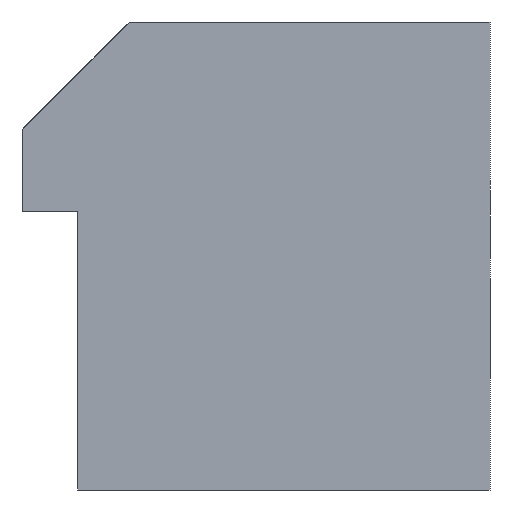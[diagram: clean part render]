
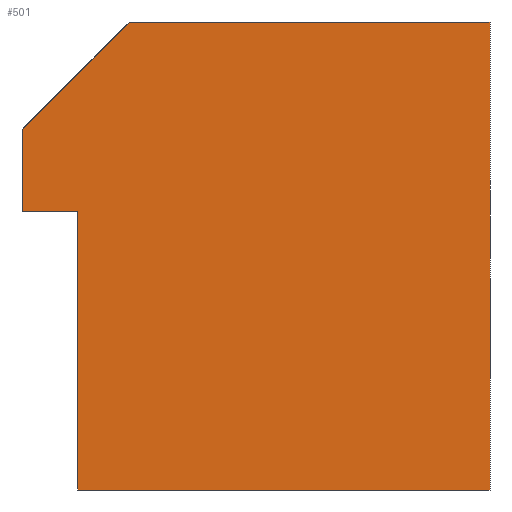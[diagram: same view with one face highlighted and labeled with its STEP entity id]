
A CAD part, front view. The second image highlights one B-rep face of the part: STEP entity #501.
In plain terms, the highlighted planar face has unit normal (0, -1, 0).
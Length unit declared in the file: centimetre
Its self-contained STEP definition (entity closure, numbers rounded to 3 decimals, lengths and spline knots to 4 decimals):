
#18 = LINE ( 'NONE', #917, #1191 ) ;
#30 = VECTOR ( 'NONE', #1062, 100. ) ;
#53 = AXIS2_PLACEMENT_3D ( 'NONE', #854, #500, #518 ) ;
#63 = CARTESIAN_POINT ( 'NONE',  ( 228.7157, 0., 1000. ) ) ;
#102 = VECTOR ( 'NONE', #739, 100. ) ;
#156 = EDGE_CURVE ( 'NONE', #779, #380, #1300, .T. ) ;
#163 = EDGE_CURVE ( 'NONE', #563, #359, #267, .T. ) ;
#182 = CARTESIAN_POINT ( 'NONE',  ( 228.7157, 0., 1000. ) ) ;
#223 = ORIENTED_EDGE ( 'NONE', *, *, #879, .T. ) ;
#231 = VECTOR ( 'NONE', #725, 100. ) ;
#235 = ORIENTED_EDGE ( 'NONE', *, *, #1087, .F. ) ;
#267 = LINE ( 'NONE', #1157, #1019 ) ;
#359 = VERTEX_POINT ( 'NONE', #885 ) ;
#380 = VERTEX_POINT ( 'NONE', #1138 ) ;
#382 = CARTESIAN_POINT ( 'NONE',  ( 119.5861, 0., 594.7686 ) ) ;
#383 = ORIENTED_EDGE ( 'NONE', *, *, #434, .T. ) ;
#388 = EDGE_LOOP ( 'NONE', ( #950, #383, #1366, #685, #235, #223, #1374 ) ) ;
#434 = EDGE_CURVE ( 'NONE', #779, #1420, #18, .T. ) ;
#462 = DIRECTION ( 'NONE',  ( 0., 0., -1. ) ) ;
#500 = DIRECTION ( 'NONE',  ( 0., 1., 0. ) ) ;
#501 = ADVANCED_FACE ( 'NONE', ( #525 ), #968, .F. ) ;
#505 = DIRECTION ( 'NONE',  ( -0.707, 0., -0.707 ) ) ;
#518 = DIRECTION ( 'NONE',  ( 0., 0., 1. ) ) ;
#525 = FACE_OUTER_BOUND ( 'NONE', #388, .T. ) ;
#528 = EDGE_CURVE ( 'NONE', #1420, #359, #1313, .T. ) ;
#529 = DIRECTION ( 'NONE',  ( 1., 0., 0. ) ) ;
#547 = CARTESIAN_POINT ( 'NONE',  ( 119.5861, 0., 0. ) ) ;
#563 = VERTEX_POINT ( 'NONE', #610 ) ;
#596 = CARTESIAN_POINT ( 'NONE',  ( 0., 0., 1000. ) ) ;
#603 = LINE ( 'NONE', #596, #656 ) ;
#610 = CARTESIAN_POINT ( 'NONE',  ( 1000., 0., 1000. ) ) ;
#656 = VECTOR ( 'NONE', #529, 100. ) ;
#685 = ORIENTED_EDGE ( 'NONE', *, *, #163, .F. ) ;
#725 = DIRECTION ( 'NONE',  ( -1., 0., 0. ) ) ;
#739 = DIRECTION ( 'NONE',  ( 0., 0., -1. ) ) ;
#741 = CARTESIAN_POINT ( 'NONE',  ( 0., 0., 0. ) ) ;
#749 = CARTESIAN_POINT ( 'NONE',  ( 119.5861, 0., 594.7686 ) ) ;
#779 = VERTEX_POINT ( 'NONE', #749 ) ;
#854 = CARTESIAN_POINT ( 'NONE',  ( 0., 0., 1000. ) ) ;
#879 = EDGE_CURVE ( 'NONE', #1335, #1264, #1378, .T. ) ;
#885 = CARTESIAN_POINT ( 'NONE',  ( 1000., 0., 0. ) ) ;
#917 = CARTESIAN_POINT ( 'NONE',  ( 119.5861, 0., 594.7686 ) ) ;
#950 = ORIENTED_EDGE ( 'NONE', *, *, #156, .F. ) ;
#968 = PLANE ( 'NONE',  #53 ) ;
#1019 = VECTOR ( 'NONE', #1049, 100. ) ;
#1032 = VECTOR ( 'NONE', #505, 100. ) ;
#1049 = DIRECTION ( 'NONE',  ( 0., 0., -1. ) ) ;
#1060 = LINE ( 'NONE', #1296, #102 ) ;
#1062 = DIRECTION ( 'NONE',  ( 1., 0., 0. ) ) ;
#1087 = EDGE_CURVE ( 'NONE', #1335, #563, #603, .T. ) ;
#1138 = CARTESIAN_POINT ( 'NONE',  ( 0., 0., 594.7686 ) ) ;
#1157 = CARTESIAN_POINT ( 'NONE',  ( 1000., 0., 1000. ) ) ;
#1191 = VECTOR ( 'NONE', #462, 100. ) ;
#1264 = VERTEX_POINT ( 'NONE', #1408 ) ;
#1296 = CARTESIAN_POINT ( 'NONE',  ( 0., 0., 1000. ) ) ;
#1300 = LINE ( 'NONE', #382, #231 ) ;
#1313 = LINE ( 'NONE', #741, #30 ) ;
#1335 = VERTEX_POINT ( 'NONE', #182 ) ;
#1364 = EDGE_CURVE ( 'NONE', #1264, #380, #1060, .T. ) ;
#1366 = ORIENTED_EDGE ( 'NONE', *, *, #528, .T. ) ;
#1374 = ORIENTED_EDGE ( 'NONE', *, *, #1364, .T. ) ;
#1378 = LINE ( 'NONE', #63, #1032 ) ;
#1408 = CARTESIAN_POINT ( 'NONE',  ( 0., 0., 771.2843 ) ) ;
#1420 = VERTEX_POINT ( 'NONE', #547 ) ;
